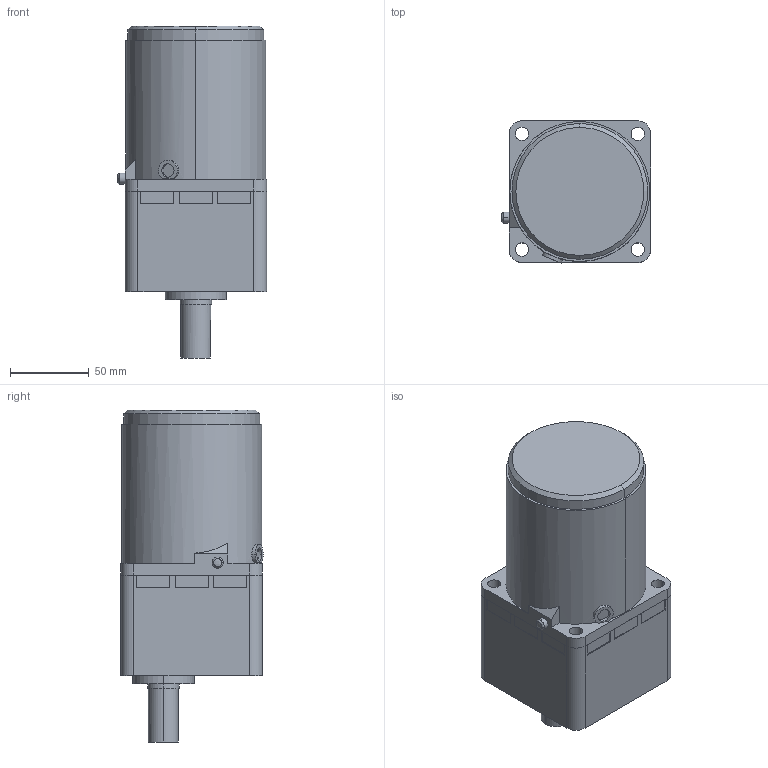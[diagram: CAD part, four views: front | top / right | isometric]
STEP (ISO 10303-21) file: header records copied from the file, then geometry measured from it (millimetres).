
FILE_DESCRIPTION (( 'STEP AP203' ), '1' );
FILE_NAME ('A1393C.step', '2020-03-19T04:28:31', ( '' ), ( '' ), 'SwSTEP 2.0', 'SolidWorks 2017', '' );
FILE_SCHEMA (( 'CONFIG_CONTROL_DESIGN' ));
Length unit declared in the file: millimetre
Products named in the file (1): A1393C
Bounding box: 94.92 x 90.43 x 211 mm (x, y, z)
Volume: 1172385.4 mm3; surface area: 96851.3 mm2
Topology: 2 solids, 3 shells, 184 faces, 483 edges, 319 vertices
Faces by surface type: cylinder 89, plane 84, cone 8, bspline 3
Entity records: 5941 total; most frequent: CARTESIAN_POINT 1131, DIRECTION 1029, ORIENTED_EDGE 962, EDGE_CURVE 481, AXIS2_PLACEMENT_3D 372, VERTEX_POINT 319, VECTOR 285, LINE 285
